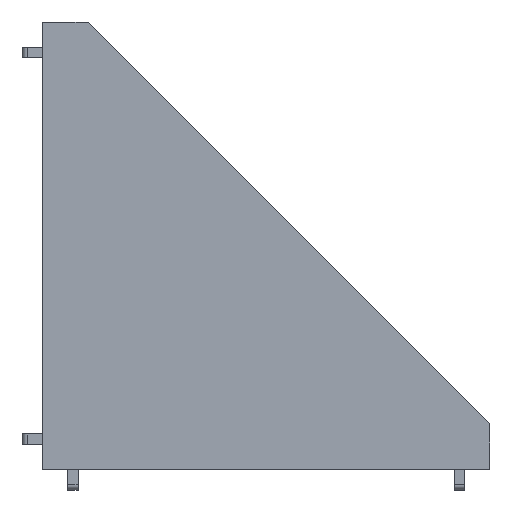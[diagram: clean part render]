
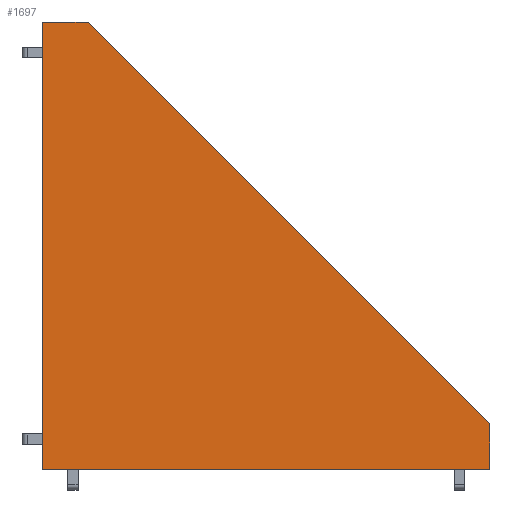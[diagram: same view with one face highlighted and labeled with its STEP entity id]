
A CAD part, top view. The second image highlights one B-rep face of the part: STEP entity #1697.
In plain terms, the highlighted planar face has unit normal (0, 0, 1).
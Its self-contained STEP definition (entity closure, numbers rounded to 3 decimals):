
#1481=CARTESIAN_POINT('',(9.0,88.0,42.0));
#1482=VERTEX_POINT('',#1481);
#1489=CARTESIAN_POINT('',(88.0,9.0,42.0));
#1490=VERTEX_POINT('',#1489);
#1491=CARTESIAN_POINT('',(9.0,88.0,42.0));
#1492=DIRECTION('',(0.707,-0.707,0.0));
#1493=VECTOR('',#1492,111.723);
#1494=LINE('',#1491,#1493);
#1495=EDGE_CURVE('',#1482,#1490,#1494,.T.);
#1511=CARTESIAN_POINT('',(0.0,0.0,42.0));
#1512=VERTEX_POINT('',#1511);
#1513=CARTESIAN_POINT('',(0.0,88.0,42.0));
#1514=VERTEX_POINT('',#1513);
#1515=CARTESIAN_POINT('',(0.0,0.0,42.0));
#1516=DIRECTION('',(0.0,1.0,0.0));
#1517=VECTOR('',#1516,88.0);
#1518=LINE('',#1515,#1517);
#1519=EDGE_CURVE('',#1512,#1514,#1518,.T.);
#1575=CARTESIAN_POINT('',(0.0,88.0,42.0));
#1576=DIRECTION('',(1.0,0.0,0.0));
#1577=VECTOR('',#1576,9.0);
#1578=LINE('',#1575,#1577);
#1579=EDGE_CURVE('',#1514,#1482,#1578,.T.);
#1598=CARTESIAN_POINT('',(88.0,0.0,42.0));
#1599=VERTEX_POINT('',#1598);
#1600=CARTESIAN_POINT('',(88.0,9.0,42.0));
#1601=DIRECTION('',(0.0,-1.0,0.0));
#1602=VECTOR('',#1601,9.0);
#1603=LINE('',#1600,#1602);
#1604=EDGE_CURVE('',#1490,#1599,#1603,.T.);
#1630=CARTESIAN_POINT('',(88.0,0.0,42.0));
#1631=DIRECTION('',(-1.0,0.0,0.0));
#1632=VECTOR('',#1631,88.0);
#1633=LINE('',#1630,#1632);
#1634=EDGE_CURVE('',#1599,#1512,#1633,.T.);
#1685=CARTESIAN_POINT('',(33.112,33.112,42.0));
#1686=DIRECTION('',(0.0,0.0,1.0));
#1687=DIRECTION('',(1.0,0.0,0.0));
#1688=AXIS2_PLACEMENT_3D('',#1685,#1686,#1687);
#1689=PLANE('',#1688);
#1690=ORIENTED_EDGE('',*,*,#1519,.F.);
#1691=ORIENTED_EDGE('',*,*,#1634,.F.);
#1692=ORIENTED_EDGE('',*,*,#1604,.F.);
#1693=ORIENTED_EDGE('',*,*,#1495,.F.);
#1694=ORIENTED_EDGE('',*,*,#1579,.F.);
#1695=EDGE_LOOP('',(#1690,#1691,#1692,#1693,#1694));
#1696=FACE_OUTER_BOUND('',#1695,.T.);
#1697=ADVANCED_FACE('',(#1696),#1689,.T.);
